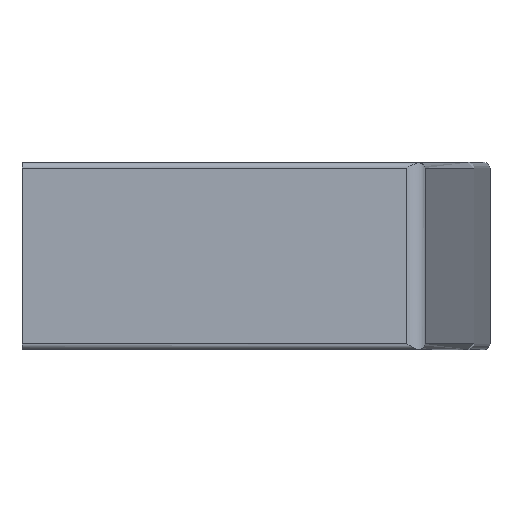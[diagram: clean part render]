
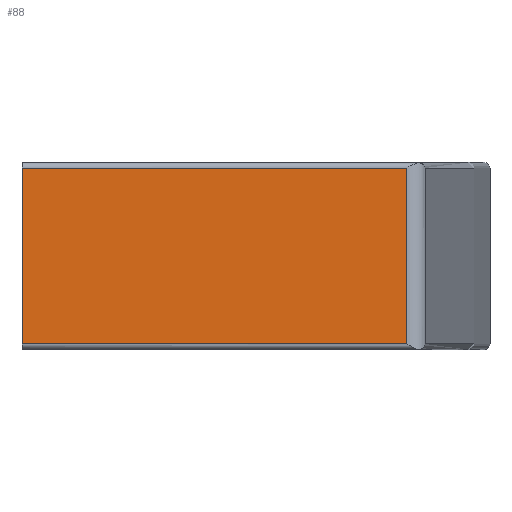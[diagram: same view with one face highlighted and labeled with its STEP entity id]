
A CAD part, left-side view. The second image highlights one B-rep face of the part: STEP entity #88.
In plain terms, the highlighted planar face has unit normal (-1, 0, 0).
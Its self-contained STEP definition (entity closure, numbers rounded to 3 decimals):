
#88 = ADVANCED_FACE( '', ( #157 ), #158, .T. );
#157 = FACE_OUTER_BOUND( '', #261, .T. );
#158 = PLANE( '', #262 );
#261 = EDGE_LOOP( '', ( #462, #463, #464, #465 ) );
#262 = AXIS2_PLACEMENT_3D( '', #466, #467, #468 );
#462 = ORIENTED_EDGE( '', *, *, #758, .F. );
#463 = ORIENTED_EDGE( '', *, *, #762, .F. );
#464 = ORIENTED_EDGE( '', *, *, #769, .T. );
#465 = ORIENTED_EDGE( '', *, *, #794, .T. );
#466 = CARTESIAN_POINT( '', ( -20., 0., 5. ) );
#467 = DIRECTION( '', ( -1., 0., 0. ) );
#468 = DIRECTION( '', ( 0., 1., 0. ) );
#758 = EDGE_CURVE( '', #910, #912, #913, .T. );
#762 = EDGE_CURVE( '', #916, #910, #918, .T. );
#769 = EDGE_CURVE( '', #916, #928, #930, .T. );
#794 = EDGE_CURVE( '', #928, #912, #974, .T. );
#910 = VERTEX_POINT( '', #1215 );
#912 = VERTEX_POINT( '', #1224 );
#913 = LINE( '', #1225, #1226 );
#916 = VERTEX_POINT( '', #1230 );
#918 = LINE( '', #1239, #1240 );
#928 = VERTEX_POINT( '', #1260 );
#930 = LINE( '', #1262, #1263 );
#974 = LINE( '', #1330, #1331 );
#1215 = CARTESIAN_POINT( '', ( -20., -20.546, -4.7 ) );
#1224 = CARTESIAN_POINT( '', ( -20., 0., -4.7 ) );
#1225 = CARTESIAN_POINT( '', ( -20., -10.273, -4.7 ) );
#1226 = VECTOR( '', #1714, 1. );
#1230 = CARTESIAN_POINT( '', ( -20., -20.546, 4.7 ) );
#1239 = CARTESIAN_POINT( '', ( -20., -20.546, 5. ) );
#1240 = VECTOR( '', #1719, 1. );
#1260 = CARTESIAN_POINT( '', ( -20., 0., 4.7 ) );
#1262 = CARTESIAN_POINT( '', ( -20., -10.273, 4.7 ) );
#1263 = VECTOR( '', #1729, 1. );
#1330 = CARTESIAN_POINT( '', ( -20., 0., 5. ) );
#1331 = VECTOR( '', #1767, 1. );
#1714 = DIRECTION( '', ( 0., 1., 0. ) );
#1719 = DIRECTION( '', ( 0., 0., -1. ) );
#1729 = DIRECTION( '', ( 0., 1., 0. ) );
#1767 = DIRECTION( '', ( 0., 0., -1. ) );
